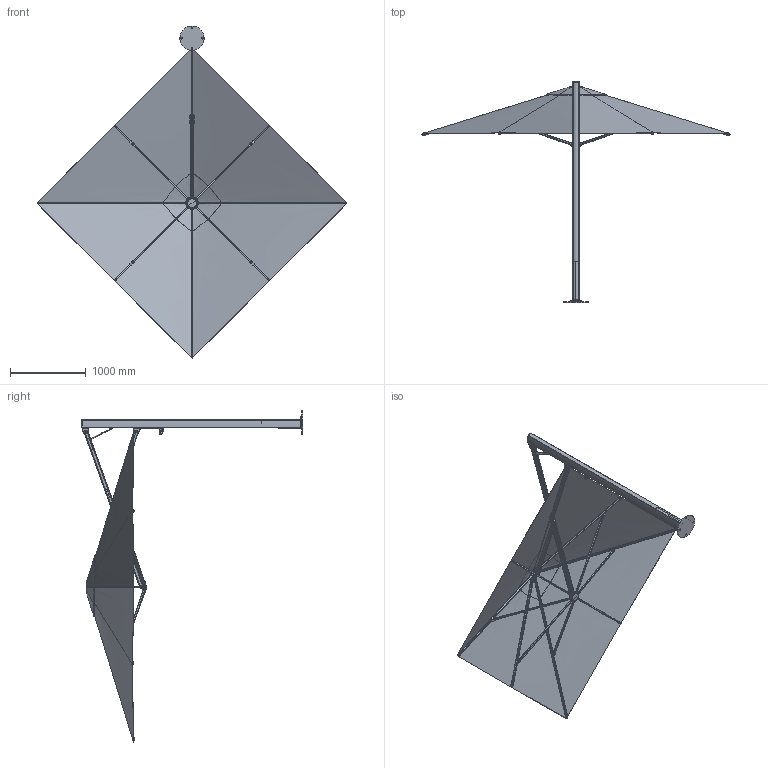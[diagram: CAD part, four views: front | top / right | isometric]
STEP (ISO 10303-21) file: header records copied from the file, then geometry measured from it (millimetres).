
FILE_DESCRIPTION (( 'STEP AP203' ), '1' );
FILE_NAME ('Serenity 3M Square.STEP', '2020-06-18T04:57:37', ( '' ), ( '' ), 'SwSTEP 2.0', 'SolidWorks 2017', '' );
FILE_SCHEMA (( 'CONFIG_CONTROL_DESIGN' ));
Length unit declared in the file: millimetre
Products named in the file (50): flat washer regular_am_B18.22M - Plain washer, 6 mm, regular; SMP_UM - 110205; SMP_UM - 110078_All Holes; SMP_UM - 110102_Stretched; SMP_UM - 110080; SMP_UM - 110191; SMP_UM - 010263_3M SQR; SMP_UM - 110094; SMP_UM - 110186; SMP_UM - 110189; SMP_UM - 110085; SMP_UM - 110210; SMP_UM - 110187b; SMP_UM - 110084; SMP_UM - 110066; SMP_UM - 210043 - Gastec Spring_Extended; SMP_UM - 110110; SMP_UM - 110064; SMP_UM - 110069; SMP_UM - 110187; SMP_UM - 110079; SMP_UM - 110088; SMP_UM - 110170; socket button head cap screw_am_B18.3.4M - 5 x 0.8 x 16 SBHCS --N; SMP_UM - 110063; SMP_UM - 110098; SMP_UM - 210019; SMP_UM - 110131; SMP_Um - 110192; SMP_UM - 110089; SMP_UM - 110222; SMP_UM - 110190; SMP_UM - 110068_revised; SMP_UM - 110171; SMP_UM - 110092; SMP_UM - 110065; SMP_UM - 110076_PD; SMP_UM - 110096_PD; SMP_UM - 110172; UM - 210036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
Assembly tree (72 placements, depth 3):
  Serenity 3M Square
    SMP_UM - 110210
      SMP_UM - 110078_All Holes
      SMP_UM - 110076_PD
    SMP_UM - 110068_revised
    SMP_UM - 110114
      SMP_UM - 110067_Default<As Machined>
    SMP_UM - 110169
      SMP_UM - 110186
      SMP_UM - 110080  x2
    SMP_UM - 110170
      SMP_UM - 110187b
      SMP_UM - 110187
      SMP_UM - 110084
      socket button head cap screw_am_B18.3.4M - 5 x 0.8 x 16 SBHCS --N
      UM - 210036
      SMP_UM - 110085  x2
    SMP_UM - 110064
      SMP_UM - 110092
    SMP_UM - 110063
      SMP_UM - 110092
      SMP_UM - 110093
      SMP_UM - 110094
      SMP_UM - 110110
    SMP_UM - 110171  x3
      SMP_UM - 110189
      SMP_UM - 110089
      SMP_UM - 110088
      flat washer regular_am_B18.22M - Plain washer, 6 mm, regular
      socket button head cap screw_am_B18.3.4M - 5 x 0.8 x 20 SBHCS --N
      SMP_UM - 110131
    SMP_UM - 110204  x3
      SMP_UM - 110190
      SMP_UM - 110089
    SMP_UM - 110066
      SMP_UM - 110098
      SMP_UM - 110075
      SMP_UM - 110096_PD
      SMP_UM - 110102_Stretched
    SMP_UM - 210043 - Gastec Spring_Extended
    SMP_UM - 110205  x4
      SMP_UM - 110191
      SMP_UM - 110089
      SMP_UM - 210019
      SMP_UM - 110088
      flat washer regular_am_B18.22M - Plain washer, 6 mm, regular
      socket button head cap screw_am_B18.3.4M - 5 x 0.8 x 20 SBHCS --N
      SMP_UM - 110131
    SMP_UM - 110172  x4
      SMP_Um - 110192
      SMP_UM - 110089
    SMP_UM - 110065
      SMP_UM - 110070
      SMP_UM - 110069
    SMP_UM - 110168
      SMP_UM - 110075
      SMP_UM - 110079
    SMP_UM - 010263_3M SQR
    SMP_UM - 110222
Bounding box: 4084.59 x 2919.83 x 4378.35 mm (x, y, z)
Volume: 51928708.6 mm3; surface area: 23493993 mm2
Topology: 98 solids, 100 shells, 1854 faces, 4493 edges, 2849 vertices
Faces by surface type: plane 586, cylinder 566, bspline 333, cone 262, torus 82, sphere 25
Entity records: 72952 total; most frequent: CARTESIAN_POINT 45886, ORIENTED_EDGE 4802, DIRECTION 3903, EDGE_CURVE 2401, AXIS2_PLACEMENT_3D 1573, VERTEX_POINT 1500, EDGE_LOOP 1029, ADVANCED_FACE 993
